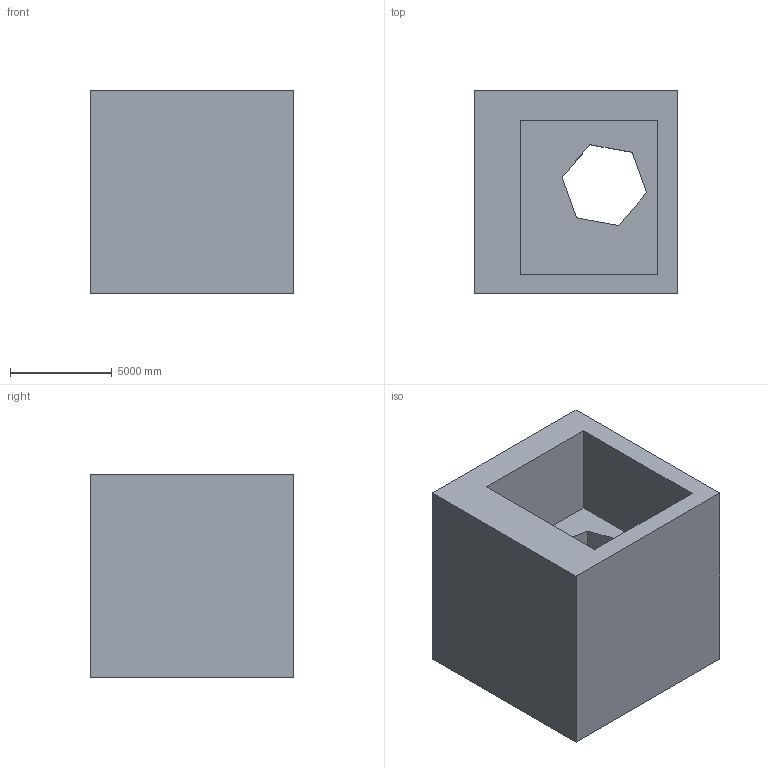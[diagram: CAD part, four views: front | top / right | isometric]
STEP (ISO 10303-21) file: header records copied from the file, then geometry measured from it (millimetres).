
FILE_DESCRIPTION (( 'STEP AP203' ), '1' );
FILE_NAME ('216.STEP', '2022-09-07T12:19:26', ( 'user' ), ( '' ), 'SwSTEP 2.0', 'SolidWorks 2021', '' );
FILE_SCHEMA (( 'CONFIG_CONTROL_DESIGN' ));
Length unit declared in the file: centimetre
Products named in the file (1): 216
Bounding box: 10000 x 10000 x 10000 mm (x, y, z)
Volume: 699891949946.5 mm3; surface area: 777923512.1 mm2
Topology: 1 solids, 1 shells, 17 faces, 42 edges, 28 vertices
Faces by surface type: plane 17
Entity records: 577 total; most frequent: CARTESIAN_POINT 88, ORIENTED_EDGE 84, DIRECTION 78, LINE 42, VECTOR 42, EDGE_CURVE 42, VERTEX_POINT 28, EDGE_LOOP 20
